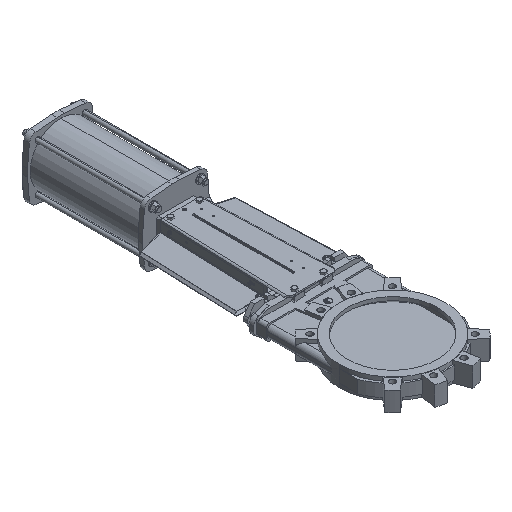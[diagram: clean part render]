
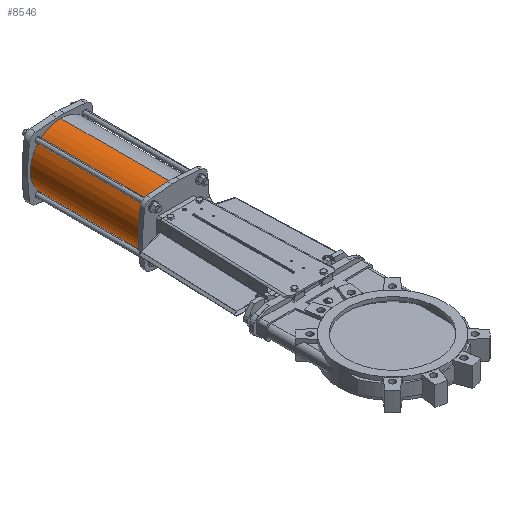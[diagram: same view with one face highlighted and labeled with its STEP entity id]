
A CAD part, isometric view. The second image highlights one B-rep face of the part: STEP entity #8546.
In plain terms, the highlighted cylindrical face has radius 105 mm (diameter 210 mm), a partial arc.
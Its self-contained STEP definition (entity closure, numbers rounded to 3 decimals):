
#6839 = VERTEX_POINT ( 'NONE', #26660 ) ;
#6848 = EDGE_CURVE ( 'NONE', #6870, #6858, #26638, .T. ) ;
#6856 = VERTEX_POINT ( 'NONE', #26684 ) ;
#6858 = VERTEX_POINT ( 'NONE', #26683 ) ;
#6863 = EDGE_CURVE ( 'NONE', #6856, #6839, #26675, .T. ) ;
#6870 = VERTEX_POINT ( 'NONE', #26724 ) ;
#8546 = ADVANCED_FACE ( 'NONE', ( #29275 ), #29271, .T. ) ;
#8547 = EDGE_LOOP ( 'NONE', ( #8548, #8549, #8551, #8552 ) ) ;
#8548 = ORIENTED_EDGE ( 'NONE', *, *, #6848, .F. ) ;
#8549 = ORIENTED_EDGE ( 'NONE', *, *, #8550, .F. ) ;
#8550 = EDGE_CURVE ( 'NONE', #6856, #6870, #29333, .T. ) ;
#8551 = ORIENTED_EDGE ( 'NONE', *, *, #6863, .T. ) ;
#8552 = ORIENTED_EDGE ( 'NONE', *, *, #18076, .T. ) ;
#18076 = EDGE_CURVE ( 'NONE', #6839, #6858, #36205, .T. ) ;
#26635 = DIRECTION ( 'NONE',  ( 0., -1., 0. ) ) ;
#26636 = VECTOR ( 'NONE', #26635, 1000. ) ;
#26637 = CARTESIAN_POINT ( 'NONE',  ( 0., 1136., 105. ) ) ;
#26638 = LINE ( 'NONE', #26637, #26636 ) ;
#26660 = CARTESIAN_POINT ( 'NONE',  ( 0., 757., -105. ) ) ;
#26672 = DIRECTION ( 'NONE',  ( 0., -1., 0. ) ) ;
#26673 = VECTOR ( 'NONE', #26672, 1000. ) ;
#26674 = CARTESIAN_POINT ( 'NONE',  ( 0., 1136., -105. ) ) ;
#26675 = LINE ( 'NONE', #26674, #26673 ) ;
#26683 = CARTESIAN_POINT ( 'NONE',  ( 0., 757., 105. ) ) ;
#26684 = CARTESIAN_POINT ( 'NONE',  ( 0., 1136., -105. ) ) ;
#26724 = CARTESIAN_POINT ( 'NONE',  ( 0., 1136., 105. ) ) ;
#29269 = AXIS2_PLACEMENT_3D ( 'NONE', #29270, #29332, #29331 ) ;
#29270 = CARTESIAN_POINT ( 'NONE',  ( 0., 1136., 0. ) ) ;
#29271 = CYLINDRICAL_SURFACE ( 'NONE', #29269, 105. ) ;
#29275 = FACE_OUTER_BOUND ( 'NONE', #8547, .T. ) ;
#29327 = DIRECTION ( 'NONE',  ( 0., 0., 1. ) ) ;
#29328 = DIRECTION ( 'NONE',  ( 0., 1., 0. ) ) ;
#29329 = CARTESIAN_POINT ( 'NONE',  ( 0., 1136., 0. ) ) ;
#29330 = AXIS2_PLACEMENT_3D ( 'NONE', #29329, #29328, #29327 ) ;
#29331 = DIRECTION ( 'NONE',  ( 0., 0., -1. ) ) ;
#29332 = DIRECTION ( 'NONE',  ( 0., -1., 0. ) ) ;
#29333 = CIRCLE ( 'NONE', #29330, 105. ) ;
#36201 = DIRECTION ( 'NONE',  ( 0., 0., 1. ) ) ;
#36202 = DIRECTION ( 'NONE',  ( 0., 1., 0. ) ) ;
#36203 = CARTESIAN_POINT ( 'NONE',  ( 0., 757., 0. ) ) ;
#36204 = AXIS2_PLACEMENT_3D ( 'NONE', #36203, #36202, #36201 ) ;
#36205 = CIRCLE ( 'NONE', #36204, 105. ) ;
